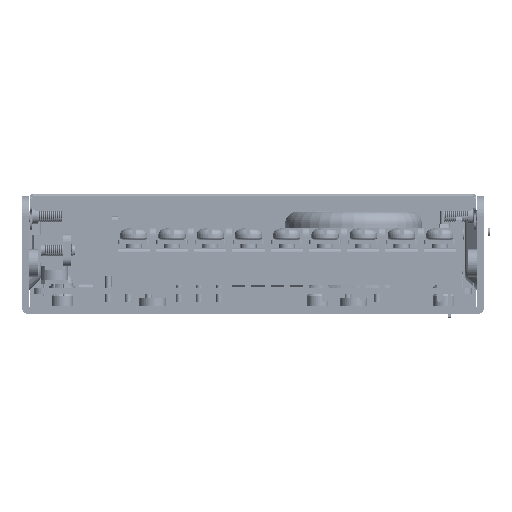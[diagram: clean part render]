
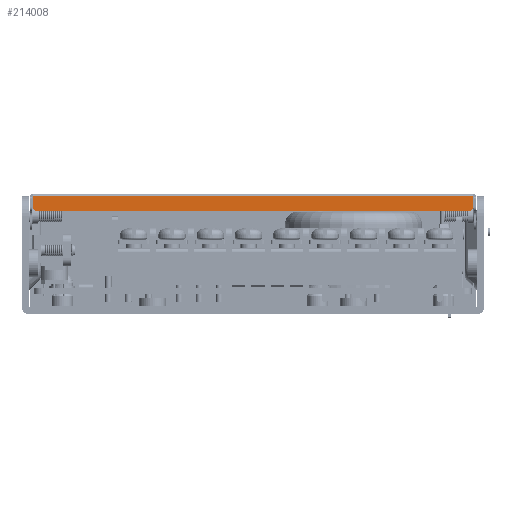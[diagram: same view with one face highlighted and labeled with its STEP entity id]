
A CAD part, left-side view. The second image highlights one B-rep face of the part: STEP entity #214008.
In plain terms, the highlighted planar face has unit normal (-1, 0, 0) as drawn and (0, -1, 0) by its records, which use the part's own axes.
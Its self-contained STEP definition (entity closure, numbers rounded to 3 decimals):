
#160292=DIRECTION('',(0.,0.,1.));
#160293=VECTOR('',#160292,2.7);
#160294=CARTESIAN_POINT('',(-54.8,-97.4,-2.7));
#160295=LINE('',#160294,#160293);
#160365=DIRECTION('',(1.,0.,0.));
#160366=VECTOR('',#160365,109.6);
#160367=CARTESIAN_POINT('',(-54.8,-97.4,0.));
#160368=LINE('',#160367,#160366);
#160372=DIRECTION('',(0.,0.,1.));
#160373=VECTOR('',#160372,2.7);
#160374=CARTESIAN_POINT('',(54.8,-97.4,-2.7));
#160375=LINE('',#160374,#160373);
#160379=CARTESIAN_POINT('',(53.8,-97.4,-2.7));
#160380=DIRECTION('',(0.,-1.,0.));
#160381=DIRECTION('',(0.,0.,-1.));
#160382=AXIS2_PLACEMENT_3D('',#160379,#160380,#160381);
#160387=CARTESIAN_POINT('',(-53.8,-97.4,-2.7));
#160388=DIRECTION('',(0.,-1.,0.));
#160389=DIRECTION('',(-1.,0.,0.));
#160390=AXIS2_PLACEMENT_3D('',#160387,#160388,#160389);
#160409=DIRECTION('',(-1.,0.,0.));
#160410=VECTOR('',#160409,107.6);
#160411=CARTESIAN_POINT('',(53.8,-97.4,-3.7));
#160412=LINE('',#160411,#160410);
#195496=CARTESIAN_POINT('',(-54.8,-97.4,0.));
#195497=VERTEX_POINT('',#195496);
#195498=CARTESIAN_POINT('',(-54.8,-97.4,-2.7));
#195499=VERTEX_POINT('',#195498);
#195502=CARTESIAN_POINT('',(54.8,-97.4,0.));
#195503=VERTEX_POINT('',#195502);
#195504=CARTESIAN_POINT('',(54.8,-97.4,-2.7));
#195505=VERTEX_POINT('',#195504);
#195508=CARTESIAN_POINT('',(53.8,-97.4,-3.7));
#195509=CARTESIAN_POINT('',(-53.8,-97.4,-3.7));
#195510=VERTEX_POINT('',#195508);
#195511=VERTEX_POINT('',#195509);
#213992=CARTESIAN_POINT('',(-65.88,-97.4,0.49));
#213993=DIRECTION('',(0.,-1.,0.));
#213994=DIRECTION('',(1.,0.,0.));
#213995=AXIS2_PLACEMENT_3D('',#213992,#213993,#213994);
#213996=PLANE('',#213995);
#213997=ORIENTED_EDGE('',*,*,#213914,.T.);
#213998=ORIENTED_EDGE('',*,*,#213987,.T.);
#213999=ORIENTED_EDGE('',*,*,#213949,.F.);
#214001=ORIENTED_EDGE('',*,*,#214000,.F.);
#214003=ORIENTED_EDGE('',*,*,#214002,.T.);
#214005=ORIENTED_EDGE('',*,*,#214004,.F.);
#214006=EDGE_LOOP('',(#213997,#213998,#213999,#214001,#214003,#214005));
#214007=FACE_OUTER_BOUND('',#214006,.F.);
#214008=ADVANCED_FACE('',(#214007),#213996,.T.);
#160383=CIRCLE('',#160382,1.);
#160391=CIRCLE('',#160390,1.);
#213914=EDGE_CURVE('',#195499,#195497,#160295,.T.);
#213949=EDGE_CURVE('',#195505,#195503,#160375,.T.);
#213987=EDGE_CURVE('',#195497,#195503,#160368,.T.);
#214000=EDGE_CURVE('',#195510,#195505,#160383,.T.);
#214002=EDGE_CURVE('',#195510,#195511,#160412,.T.);
#214004=EDGE_CURVE('',#195499,#195511,#160391,.T.);
